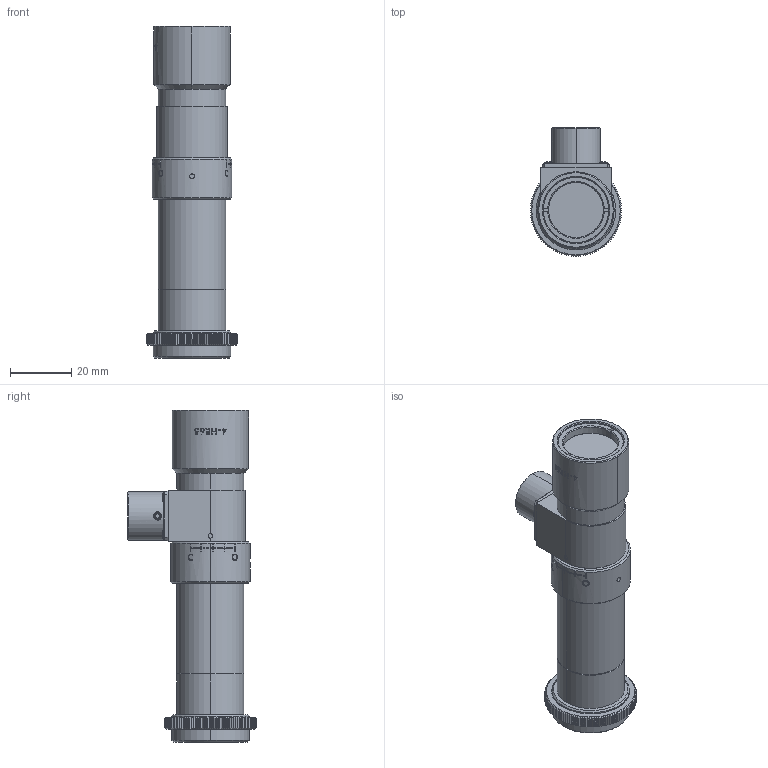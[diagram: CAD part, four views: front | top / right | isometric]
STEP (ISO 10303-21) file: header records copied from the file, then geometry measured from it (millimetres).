
FILE_DESCRIPTION (( 'STEP AP203' ), '1' );
FILE_NAME ('MML4-HR65D-VI_A03940A0000101A.STEP', '2014-07-15T04:16:07', ( '' ), ( '' ), 'SwSTEP 2.0', 'SolidWorks 2011', '' );
FILE_SCHEMA (( 'CONFIG_CONTROL_DESIGN' ));
Products named in the file (1): MML4-HR65D-VI_A03940A0000101A
Bounding box: 30 x 42 x 108.7 mm (x, y, z)
Volume: 44253.2 mm3; surface area: 14497.9 mm2
Topology: 1 solids, 14 shells, 893 faces, 2341 edges, 1496 vertices
Faces by surface type: plane 521, cone 146, cylinder 114, bspline 88, torus 16, sphere 8
Entity records: 36718 total; most frequent: CARTESIAN_POINT 16298, ORIENTED_EDGE 4650, DIRECTION 3634, EDGE_CURVE 2325, VERTEX_POINT 1496, AXIS2_PLACEMENT_3D 1421, EDGE_LOOP 951, B_SPLINE_CURVE_WITH_KNOTS 898
